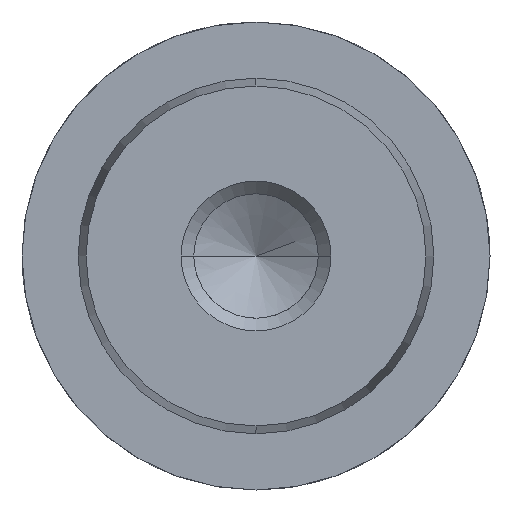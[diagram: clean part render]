
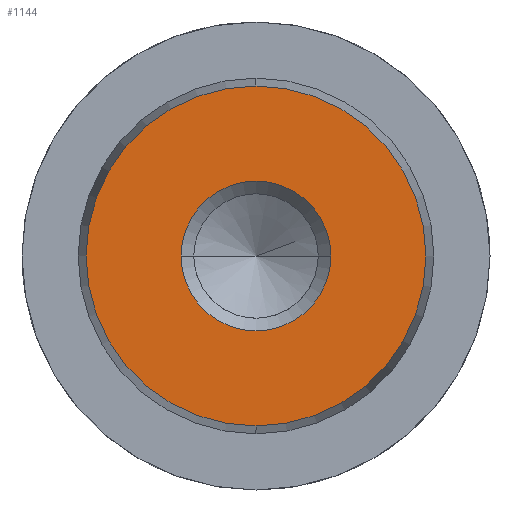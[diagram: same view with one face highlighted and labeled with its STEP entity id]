
A CAD part, left-side view. The second image highlights one B-rep face of the part: STEP entity #1144.
In plain terms, the highlighted planar face has unit normal (-1, 0, 0).
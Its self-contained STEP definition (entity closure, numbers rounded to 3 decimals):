
#1058=CARTESIAN_POINT('Vertex',(0.,0.,-9.078)) ;
#1061=CARTESIAN_POINT('Axis2P3D Location',(0.,0.,0.)) ;
#1065=CARTESIAN_POINT('Vertex',(0.,9.078,0.)) ;
#1068=CARTESIAN_POINT('Axis2P3D Location',(0.,0.,0.)) ;
#1072=CARTESIAN_POINT('Vertex',(0.,0.,9.078)) ;
#1094=CARTESIAN_POINT('Axis2P3D Location',(0.,0.,0.)) ;
#1098=CARTESIAN_POINT('Vertex',(0.,-9.078,0.)) ;
#1101=CARTESIAN_POINT('Axis2P3D Location',(0.,0.,0.)) ;
#1115=CARTESIAN_POINT('Axis2P3D Location',(0.,0.,0.)) ;
#1126=CARTESIAN_POINT('Axis2P3D Location',(0.,0.,0.)) ;
#1130=CARTESIAN_POINT('Vertex',(0.,4.,0.)) ;
#1132=CARTESIAN_POINT('Vertex',(0.,-4.,0.)) ;
#1135=CARTESIAN_POINT('Axis2P3D Location',(0.,0.,0.)) ;
#1062=DIRECTION('Axis2P3D Direction',(1.,0.,-0.)) ;
#1069=DIRECTION('Axis2P3D Direction',(1.,0.,-0.)) ;
#1095=DIRECTION('Axis2P3D Direction',(1.,0.,-0.)) ;
#1102=DIRECTION('Axis2P3D Direction',(1.,0.,-0.)) ;
#1116=DIRECTION('Axis2P3D Direction',(1.,0.,-0.)) ;
#1117=DIRECTION('Axis2P3D XDirection',(-0.,0.,-1.)) ;
#1127=DIRECTION('Axis2P3D Direction',(1.,0.,-0.)) ;
#1136=DIRECTION('Axis2P3D Direction',(1.,0.,-0.)) ;
#1063=AXIS2_PLACEMENT_3D('Circle Axis2P3D',#1061,#1062,$) ;
#1070=AXIS2_PLACEMENT_3D('Circle Axis2P3D',#1068,#1069,$) ;
#1096=AXIS2_PLACEMENT_3D('Circle Axis2P3D',#1094,#1095,$) ;
#1103=AXIS2_PLACEMENT_3D('Circle Axis2P3D',#1101,#1102,$) ;
#1118=AXIS2_PLACEMENT_3D('Plane Axis2P3D',#1115,#1116,#1117) ;
#1128=AXIS2_PLACEMENT_3D('Circle Axis2P3D',#1126,#1127,$) ;
#1137=AXIS2_PLACEMENT_3D('Circle Axis2P3D',#1135,#1136,$) ;
#1121=ORIENTED_EDGE('',*,*,#1067,.F.) ;
#1122=ORIENTED_EDGE('',*,*,#1105,.F.) ;
#1123=ORIENTED_EDGE('',*,*,#1100,.F.) ;
#1124=ORIENTED_EDGE('',*,*,#1074,.F.) ;
#1141=ORIENTED_EDGE('',*,*,#1134,.T.) ;
#1142=ORIENTED_EDGE('',*,*,#1139,.T.) ;
#1143=FACE_BOUND('',#1140,.T.) ;
#1144=ADVANCED_FACE('718-19x125',(#1125,#1143),#1119,.F.) ;
#1064=CIRCLE('generated circle',#1063,9.078) ;
#1071=CIRCLE('generated circle',#1070,9.078) ;
#1097=CIRCLE('generated circle',#1096,9.078) ;
#1104=CIRCLE('generated circle',#1103,9.078) ;
#1129=CIRCLE('generated circle',#1128,4.) ;
#1138=CIRCLE('generated circle',#1137,4.) ;
#1067=EDGE_CURVE('',#1059,#1066,#1064,.T.) ;
#1074=EDGE_CURVE('',#1066,#1073,#1071,.T.) ;
#1100=EDGE_CURVE('',#1073,#1099,#1097,.T.) ;
#1105=EDGE_CURVE('',#1099,#1059,#1104,.T.) ;
#1134=EDGE_CURVE('',#1131,#1133,#1129,.T.) ;
#1139=EDGE_CURVE('',#1133,#1131,#1138,.T.) ;
#1120=EDGE_LOOP('',(#1121,#1122,#1123,#1124)) ;
#1140=EDGE_LOOP('',(#1141,#1142)) ;
#1125=FACE_OUTER_BOUND('',#1120,.T.) ;
#1119=PLANE('Plane',#1118) ;
#1059=VERTEX_POINT('',#1058) ;
#1066=VERTEX_POINT('',#1065) ;
#1073=VERTEX_POINT('',#1072) ;
#1099=VERTEX_POINT('',#1098) ;
#1131=VERTEX_POINT('',#1130) ;
#1133=VERTEX_POINT('',#1132) ;
